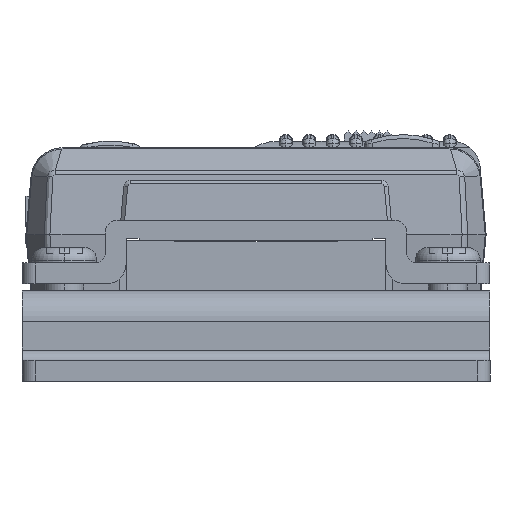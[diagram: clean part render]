
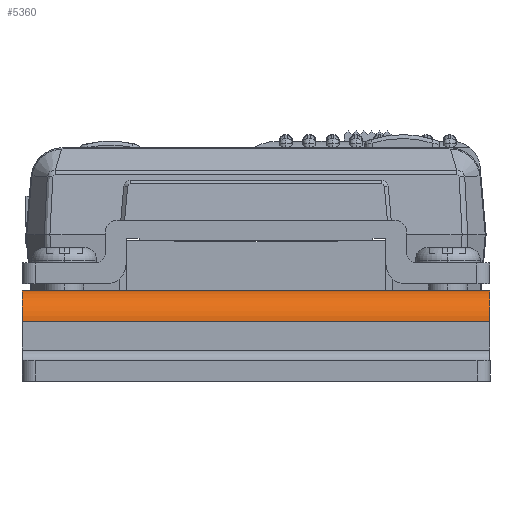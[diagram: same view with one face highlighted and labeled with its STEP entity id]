
A CAD part, left-side view. The second image highlights one B-rep face of the part: STEP entity #5360.
In plain terms, the highlighted cylindrical face has radius 2.4 mm (diameter 4.8 mm), a partial arc.
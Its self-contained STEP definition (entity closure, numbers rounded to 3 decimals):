
#620=CARTESIAN_POINT('',(139.239,261.109,
104.606));
#630=VERTEX_POINT('',#620);
#660=CARTESIAN_POINT('',(139.239,261.109,
102.206));
#670=DIRECTION('',(0.,-1.,0.));
#680=DIRECTION('',(1.,0.,0.));
#690=AXIS2_PLACEMENT_3D('',#660,#670,#680);
#700=CIRCLE('',#690,2.4);
#710=CARTESIAN_POINT('',(136.839,261.109,
102.206));
#720=VERTEX_POINT('',#710);
#730=EDGE_CURVE('',#630,#720,#700,.T.);
#2530=CARTESIAN_POINT('',(136.839,225.109,
102.206));
#2540=VERTEX_POINT('',#2530);
#2570=CARTESIAN_POINT('',(139.239,225.109,
102.206));
#2580=DIRECTION('',(0.,-1.,0.));
#2590=DIRECTION('',(1.,0.,0.));
#2600=AXIS2_PLACEMENT_3D('',#2570,#2580,#2590);
#2610=CIRCLE('',#2600,2.4);
#2620=CARTESIAN_POINT('',(139.239,225.109,
104.606));
#2630=VERTEX_POINT('',#2620);
#2640=EDGE_CURVE('',#2630,#2540,#2610,.T.);
#4800=CARTESIAN_POINT('',(139.239,261.109,
104.606));
#4810=DIRECTION('',(0.,-1.,0.));
#4820=VECTOR('',#4810,1.);
#4830=LINE('',#4800,#4820);
#4840=EDGE_CURVE('',#630,#2630,#4830,.T.);
#5200=CARTESIAN_POINT('',(139.239,261.109,
102.206));
#5210=DIRECTION('',(0.,-1.,0.));
#5220=DIRECTION('',(1.,0.,0.));
#5230=AXIS2_PLACEMENT_3D('',#5200,#5210,#5220);
#5240=CYLINDRICAL_SURFACE('',#5230,2.4);
#5250=ORIENTED_EDGE('',*,*,#4840,.F.);
#5260=ORIENTED_EDGE('',*,*,#2640,.F.);
#5270=CARTESIAN_POINT('',(136.839,261.109,
102.206));
#5280=DIRECTION('',(0.,-1.,0.));
#5290=VECTOR('',#5280,1.);
#5300=LINE('',#5270,#5290);
#5310=EDGE_CURVE('',#720,#2540,#5300,.T.);
#5320=ORIENTED_EDGE('',*,*,#5310,.T.);
#5330=ORIENTED_EDGE('',*,*,#730,.T.);
#5340=EDGE_LOOP('',(#5330,#5320,#5260,#5250));
#5350=FACE_OUTER_BOUND('',#5340,.T.);
#5360=ADVANCED_FACE('',(#5350),#5240,.T.);
